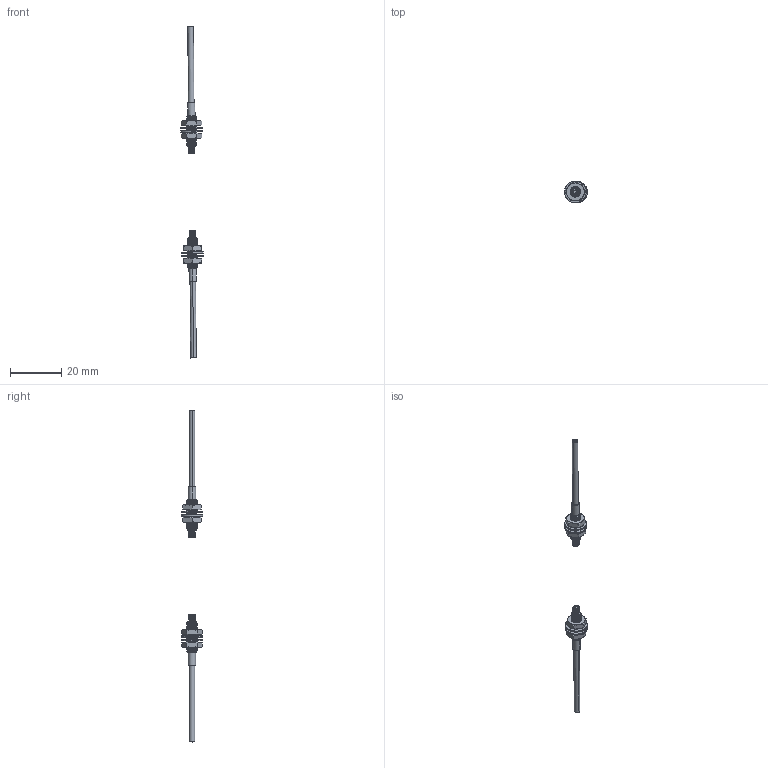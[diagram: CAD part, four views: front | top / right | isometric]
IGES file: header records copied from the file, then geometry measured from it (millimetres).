
Start section: SolidWorks IGES file using analytic representation for surfaces
Bounding box: 8.94 x 8.5 x 130.01 mm (x, y, z)
Surface area: 2061.2 mm2 (no closed solid volume)
Topology: 0 solids, 0 shells, 426 faces, 6770 edges, 6770 vertices
Faces by surface type: revolution 276, bspline 150
